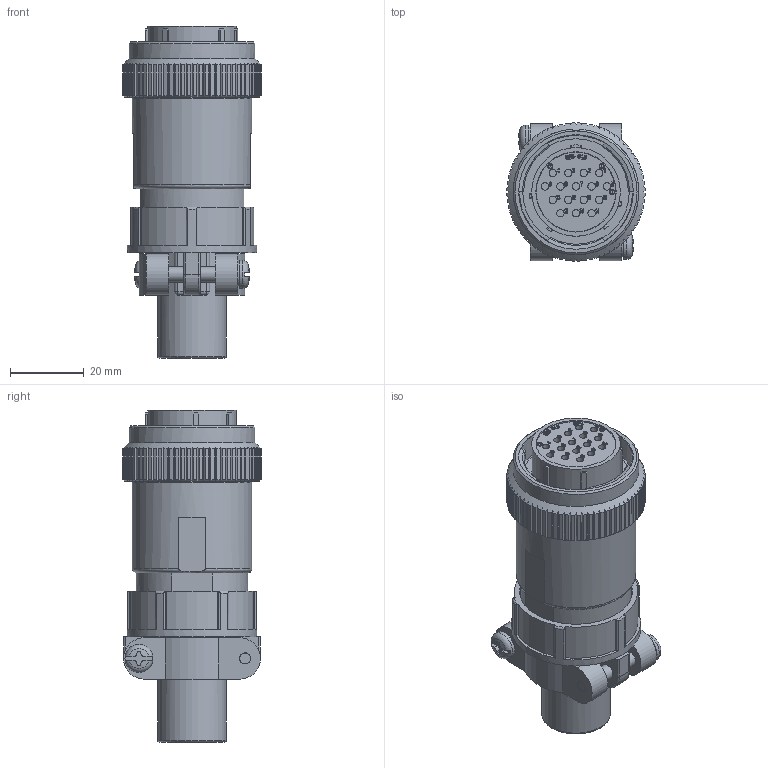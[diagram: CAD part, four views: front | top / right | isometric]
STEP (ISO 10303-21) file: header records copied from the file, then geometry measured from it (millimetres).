
FILE_DESCRIPTION (( 'STEP AP203' ), '1' );
FILE_NAME ('WEBSP2516F-2-D(R1).STEP', '2021-05-19T07:07:52', ( '' ), ( '' ), 'SwSTEP 2.0', 'SolidWorks 2018', '' );
FILE_SCHEMA (( 'CONFIG_CONTROL_DESIGN' ));
Products named in the file (1): WEBSP2516F-2-D(R1)
Bounding box: 37.4 x 37.4 x 89.8 mm (x, y, z)
Volume: 45337.4 mm3; surface area: 25315.2 mm2
Topology: 1 solids, 3 shells, 1667 faces, 4537 edges, 2999 vertices
Faces by surface type: plane 809, bspline 538, cylinder 263, cone 31, torus 18, sphere 8
Full cylindrical faces by diameter (mm): 1.2 x4, 1.4 x4, 1.7 x16, 2 x16, 2.4 x16, 2.8 x2, 3 x2, 4.1 x4, 4.3 x2, 7.6 x2, 13 x2, 17.8 x1, 18.64 x1, 19 x1, 21.3 x1, 21.5 x1, 21.7 x1, 23.2 x1, 23.6 x1, 24 x1, 27.85 x1, 28.8 x1, 30.5 x1, 30.6 x1, 32.3 x1, 35 x1
Entity records: 70533 total; most frequent: CARTESIAN_POINT 33157, ORIENTED_EDGE 8712, DIRECTION 5725, EDGE_CURVE 4356, VERTEX_POINT 2943, LINE 2289, VECTOR 2289, EDGE_LOOP 1939
